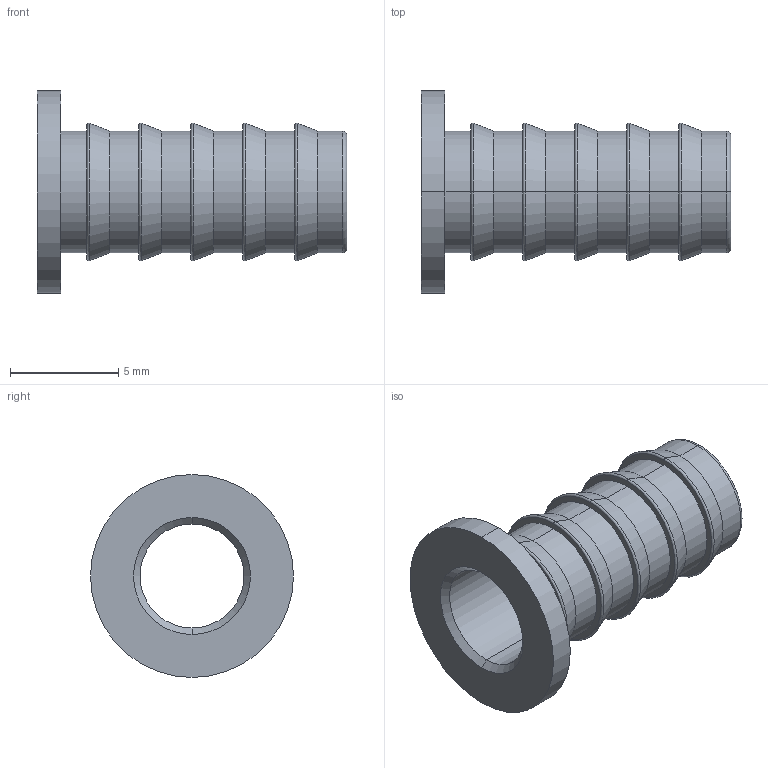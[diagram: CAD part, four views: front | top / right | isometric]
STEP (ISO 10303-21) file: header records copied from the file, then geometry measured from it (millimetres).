
FILE_DESCRIPTION (( 'STEP AP203' ), '1' );
FILE_NAME ('DTI06-04 SS.STEP', '2009-09-08T09:58:17', ( ' ' ), ( '' ), 'SwSTEP 2.0', 'SolidWorks 2008', '' );
FILE_SCHEMA (( 'CONFIG_CONTROL_DESIGN' ));
Length unit declared in the file: millimetre
Products named in the file (1): DTI06-04 SS
Bounding box: 14.3 x 9.37 x 9.37 mm (x, y, z)
Volume: 163.3 mm3; surface area: 620.7 mm2
Topology: 1 solids, 1 shells, 50 faces, 100 edges, 58 vertices
Faces by surface type: cylinder 16, cone 14, torus 12, plane 8
Entity records: 1387 total; most frequent: DIRECTION 272, CARTESIAN_POINT 209, ORIENTED_EDGE 200, AXIS2_PLACEMENT_3D 121, EDGE_CURVE 100, CIRCLE 70, VERTEX_POINT 58, EDGE_LOOP 58
